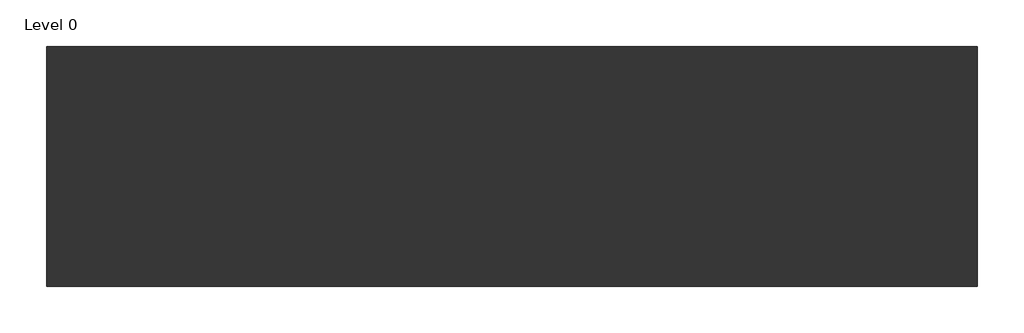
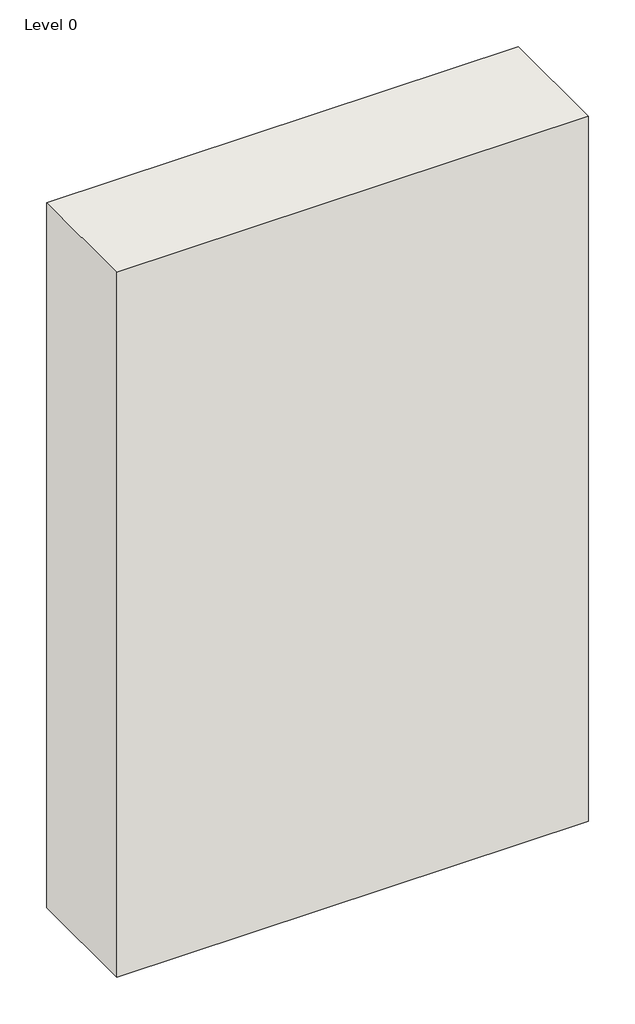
# One storey: 1 wall.
"""IFC4 building model written with IfcOpenShell, lengths in millimetres."""

from ifc_helpers import new_model, si_unit, origin, origin_with_axes, place, context, project, spatial, polyline, outline, extrude, element, save

model = new_model("IFC4")

# Units and contexts
model_context = context("Model", 3, world=origin())
ifc_project = project(units=[si_unit("LENGTHUNIT", "METRE", prefix="MILLI")], contexts=[model_context])

# Site, building, storey
site = spatial("IfcSite", under=ifc_project)
building = spatial("IfcBuilding", under=site)
storey = spatial("IfcBuildingStorey", under=building, Name="Level 0", Elevation=0.0)

# Wall
placement = place(None, origin())
element("IfcWall", 1, ObjectType="A326019(a) - GypWall Audio", at=placement, inside=storey, context=model_context, shape_type="SweptSolid", body=[
    extrude(outline(polyline([(1155.997948, 155.2669953), (-1944.002052, 155.2669953), (-1944.002052, 955.2669953), (1155.997948, 955.2669953), (1155.997948, 155.2669953)])), origin_with_axes(), (0.0, 0.0, 1.0), 4900.0),
])

save(model, "model.ifc")
